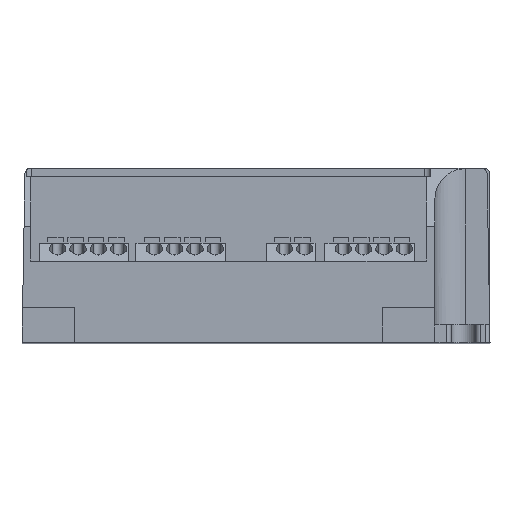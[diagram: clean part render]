
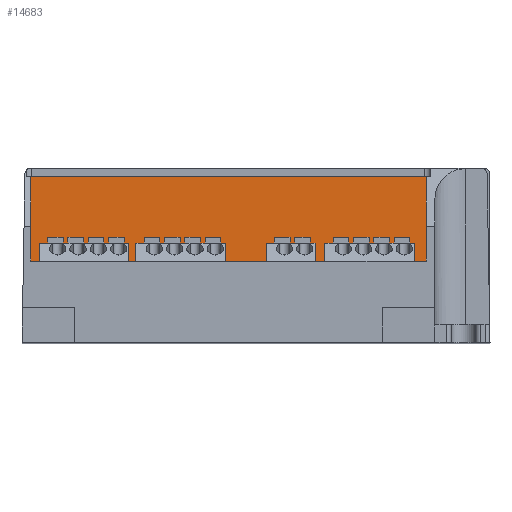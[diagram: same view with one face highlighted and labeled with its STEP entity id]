
A CAD part, top view. The second image highlights one B-rep face of the part: STEP entity #14683.
In plain terms, the highlighted planar face has unit normal (0, 0, 1).
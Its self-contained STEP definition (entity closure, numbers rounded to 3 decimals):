
#119 = CARTESIAN_POINT ( 'NONE',  ( -38.75, 28.5, 54.55 ) ) ;
#330 = DIRECTION ( 'NONE',  ( -1., 0., 0. ) ) ;
#973 = VERTEX_POINT ( 'NONE', #4617 ) ;
#1072 = CARTESIAN_POINT ( 'NONE',  ( -38.75, 17.05, 54.55 ) ) ;
#1254 = EDGE_CURVE ( 'NONE', #14603, #973, #12292, .T. ) ;
#1791 = VECTOR ( 'NONE', #4969, 1000. ) ;
#2223 = LINE ( 'NONE', #12028, #14406 ) ;
#2417 = EDGE_LOOP ( 'NONE', ( #14158, #13009, #2642, #9248 ) ) ;
#2572 = CARTESIAN_POINT ( 'NONE',  ( 29.25, 17.05, 54.55 ) ) ;
#2642 = ORIENTED_EDGE ( 'NONE', *, *, #7550, .T. ) ;
#2875 = VECTOR ( 'NONE', #5812, 1000. ) ;
#4617 = CARTESIAN_POINT ( 'NONE',  ( -38.75, 5.6, 54.55 ) ) ;
#4969 = DIRECTION ( 'NONE',  ( 0., 1., 0. ) ) ;
#5349 = LINE ( 'NONE', #2572, #1791 ) ;
#5627 = CARTESIAN_POINT ( 'NONE',  ( 29.25, 5.6, 54.55 ) ) ;
#5721 = FACE_OUTER_BOUND ( 'NONE', #2417, .T. ) ;
#5812 = DIRECTION ( 'NONE',  ( 0., -1., 0. ) ) ;
#6516 = EDGE_CURVE ( 'NONE', #10348, #973, #2223, .T. ) ;
#6521 = CARTESIAN_POINT ( 'NONE',  ( 29.25, 28.5, 54.55 ) ) ;
#7371 = DIRECTION ( 'NONE',  ( -1., 0., 0. ) ) ;
#7441 = DIRECTION ( 'NONE',  ( 0., 0., -1. ) ) ;
#7550 = EDGE_CURVE ( 'NONE', #10348, #9159, #5349, .T. ) ;
#9159 = VERTEX_POINT ( 'NONE', #6521 ) ;
#9177 = DIRECTION ( 'NONE',  ( -1., 0., 0. ) ) ;
#9248 = ORIENTED_EDGE ( 'NONE', *, *, #10584, .T. ) ;
#9878 = AXIS2_PLACEMENT_3D ( 'NONE', #14465, #7441, #330 ) ;
#10111 = VECTOR ( 'NONE', #9177, 1000. ) ;
#10348 = VERTEX_POINT ( 'NONE', #5627 ) ;
#10584 = EDGE_CURVE ( 'NONE', #9159, #14603, #12867, .T. ) ;
#12028 = CARTESIAN_POINT ( 'NONE',  ( -4.75, 5.6, 54.55 ) ) ;
#12113 = PLANE ( 'NONE',  #9878 ) ;
#12292 = LINE ( 'NONE', #1072, #2875 ) ;
#12867 = LINE ( 'NONE', #15020, #10111 ) ;
#13009 = ORIENTED_EDGE ( 'NONE', *, *, #6516, .F. ) ;
#14158 = ORIENTED_EDGE ( 'NONE', *, *, #1254, .T. ) ;
#14406 = VECTOR ( 'NONE', #7371, 1000. ) ;
#14465 = CARTESIAN_POINT ( 'NONE',  ( 30.61, 5.142, 54.55 ) ) ;
#14603 = VERTEX_POINT ( 'NONE', #119 ) ;
#14683 = ADVANCED_FACE ( 'NONE', ( #5721 ), #12113, .F. ) ;
#15020 = CARTESIAN_POINT ( 'NONE',  ( -4.75, 28.5, 54.55 ) ) ;
